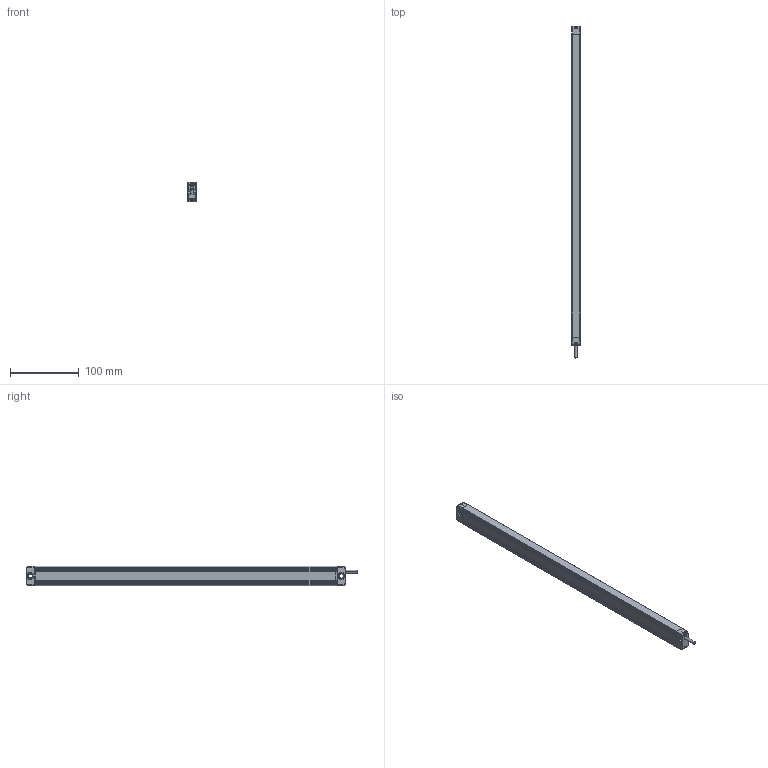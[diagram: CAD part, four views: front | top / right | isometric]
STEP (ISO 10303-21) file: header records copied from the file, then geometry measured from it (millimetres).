
FILE_DESCRIPTION((''),'2;1');
FILE_NAME('EB13-0320_ASM','2021-07-12T16:34:43',('18720616900'),(''),'CREO PARAMETRIC BY PTC INC, 2019010','CREO PARAMETRIC BY PTC INC, 2019010','');
FILE_SCHEMA(('CONFIG_CONTROL_DESIGN'));
Products named in the file (7): EB1300; 000; 0002; 0004; EB13-0320_ASM
Assembly tree (9 placements, depth 2):
  EB13-0320_ASM
    EB1300
    000
    0002
    000
    0004  x4
    000
Bounding box: 13 x 482.4 x 28 mm (x, y, z)
Volume: 173489 mm3; surface area: 61754.9 mm2
Topology: 9 solids, 27 shells, 1032 faces, 3520 edges, 2523 vertices
Faces by surface type: cylinder 544, plane 295, bspline 118, torus 40, sphere 31, cone 4
Entity records: 52594 total; most frequent: CARTESIAN_POINT 37957, ORIENTED_EDGE 3370, DIRECTION 2501, EDGE_CURVE 1685, VERTEX_POINT 1150, AXIS2_PLACEMENT_3D 849, VECTOR 803, LINE 803
